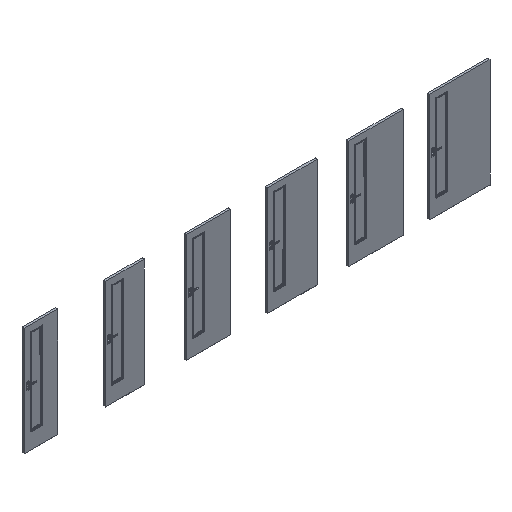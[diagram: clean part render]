
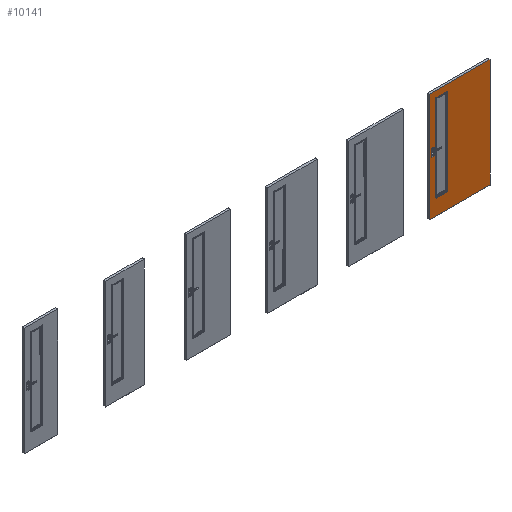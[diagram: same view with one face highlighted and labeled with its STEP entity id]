
A CAD part, isometric view. The second image highlights one B-rep face of the part: STEP entity #10141.
In plain terms, the highlighted planar face has unit normal (0, -1, 0).
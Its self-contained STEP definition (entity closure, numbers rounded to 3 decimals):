
#10141=ADVANCED_FACE('',(#17214,#17215),#14025,.F.);
#14025=PLANE('',#71962);
#16430=CIRCLE('',#71958,7.);
#16431=CIRCLE('',#71959,7.);
#16432=CIRCLE('',#71960,7.);
#16433=CIRCLE('',#71961,7.);
#17214=FACE_BOUND('',#17609,.T.);
#17215=FACE_BOUND('',#17610,.T.);
#17609=EDGE_LOOP('',(#22584,#22585,#22586,#22587,#22588,#22589,#22590,#22591));
#17610=EDGE_LOOP('',(#22592,#22593,#22594,#22595));
#22584=ORIENTED_EDGE('',*,*,#48562,.T.);
#22585=ORIENTED_EDGE('',*,*,#48563,.T.);
#22586=ORIENTED_EDGE('',*,*,#48564,.T.);
#22587=ORIENTED_EDGE('',*,*,#48565,.T.);
#22588=ORIENTED_EDGE('',*,*,#48566,.T.);
#22589=ORIENTED_EDGE('',*,*,#48567,.T.);
#22590=ORIENTED_EDGE('',*,*,#48568,.T.);
#22591=ORIENTED_EDGE('',*,*,#48569,.T.);
#22592=ORIENTED_EDGE('',*,*,#48560,.T.);
#22593=ORIENTED_EDGE('',*,*,#48570,.T.);
#22594=ORIENTED_EDGE('',*,*,#48571,.F.);
#22595=ORIENTED_EDGE('',*,*,#48572,.F.);
#41838=VERTEX_POINT('',#92134);
#41839=VERTEX_POINT('',#92136);
#41840=VERTEX_POINT('',#92140);
#41841=VERTEX_POINT('',#92141);
#41842=VERTEX_POINT('',#92143);
#41843=VERTEX_POINT('',#92145);
#41844=VERTEX_POINT('',#92147);
#41845=VERTEX_POINT('',#92149);
#41846=VERTEX_POINT('',#92151);
#41847=VERTEX_POINT('',#92153);
#41848=VERTEX_POINT('',#92156);
#41849=VERTEX_POINT('',#92158);
#48560=EDGE_CURVE('',#41839,#41838,#58366,.T.);
#48562=EDGE_CURVE('',#41840,#41841,#16430,.T.);
#48563=EDGE_CURVE('',#41841,#41842,#58368,.T.);
#48564=EDGE_CURVE('',#41842,#41843,#16431,.T.);
#48565=EDGE_CURVE('',#41843,#41844,#58369,.T.);
#48566=EDGE_CURVE('',#41844,#41845,#16432,.T.);
#48567=EDGE_CURVE('',#41845,#41846,#58370,.T.);
#48568=EDGE_CURVE('',#41846,#41847,#16433,.T.);
#48569=EDGE_CURVE('',#41847,#41840,#58371,.T.);
#48570=EDGE_CURVE('',#41838,#41848,#58372,.T.);
#48571=EDGE_CURVE('',#41849,#41848,#58373,.T.);
#48572=EDGE_CURVE('',#41839,#41849,#58374,.T.);
#58366=LINE('',#92135,#65152);
#58368=LINE('',#92142,#65154);
#58369=LINE('',#92146,#65155);
#58370=LINE('',#92150,#65156);
#58371=LINE('',#92154,#65157);
#58372=LINE('',#92155,#65158);
#58373=LINE('',#92157,#65159);
#58374=LINE('',#92159,#65160);
#65152=VECTOR('',#76419,1.);
#65154=VECTOR('',#76425,1.);
#65155=VECTOR('',#76428,1.);
#65156=VECTOR('',#76431,1.);
#65157=VECTOR('',#76434,1.);
#65158=VECTOR('',#76435,1.);
#65159=VECTOR('',#76436,1.);
#65160=VECTOR('',#76437,1.);
#71958=AXIS2_PLACEMENT_3D('',#92139,#76423,#76424);
#71959=AXIS2_PLACEMENT_3D('',#92144,#76426,#76427);
#71960=AXIS2_PLACEMENT_3D('',#92148,#76429,#76430);
#71961=AXIS2_PLACEMENT_3D('',#92152,#76432,#76433);
#71962=AXIS2_PLACEMENT_3D('',#92160,#76438,#76439);
#76419=DIRECTION('',(0.,0.,-1.));
#76423=DIRECTION('',(0.,1.,0.));
#76424=DIRECTION('',(1.,0.,0.));
#76425=DIRECTION('',(1.,0.,0.));
#76426=DIRECTION('',(0.,1.,0.));
#76427=DIRECTION('',(-1.,0.,0.));
#76428=DIRECTION('',(0.,0.,-1.));
#76429=DIRECTION('',(0.,1.,0.));
#76430=DIRECTION('',(-1.,0.,0.));
#76431=DIRECTION('',(-1.,0.,0.));
#76432=DIRECTION('',(0.,1.,0.));
#76433=DIRECTION('',(1.,0.,0.));
#76434=DIRECTION('',(0.,0.,1.));
#76435=DIRECTION('',(1.,0.,0.));
#76436=DIRECTION('',(0.,0.,-1.));
#76437=DIRECTION('',(1.,0.,0.));
#76438=DIRECTION('',(0.,1.,0.));
#76439=DIRECTION('',(0.,0.,1.));
#92134=CARTESIAN_POINT('',(7191.,-39.3,2.));
#92135=CARTESIAN_POINT('',(7191.,-39.3,2017.));
#92136=CARTESIAN_POINT('',(7191.,-39.3,2017.));
#92139=CARTESIAN_POINT('',(7317.95,-39.3,1890.05));
#92140=CARTESIAN_POINT('',(7313.,-39.3,1885.101));
#92141=CARTESIAN_POINT('',(7322.899,-39.3,1895.));
#92142=CARTESIAN_POINT('',(7322.899,-39.3,1895.));
#92143=CARTESIAN_POINT('',(7510.101,-39.3,1895.));
#92144=CARTESIAN_POINT('',(7515.05,-39.3,1890.05));
#92145=CARTESIAN_POINT('',(7520.,-39.3,1885.101));
#92146=CARTESIAN_POINT('',(7520.,-39.3,1885.101));
#92147=CARTESIAN_POINT('',(7520.,-39.3,310.899));
#92148=CARTESIAN_POINT('',(7515.05,-39.3,305.95));
#92149=CARTESIAN_POINT('',(7510.101,-39.3,301.));
#92150=CARTESIAN_POINT('',(7510.101,-39.3,301.));
#92151=CARTESIAN_POINT('',(7322.899,-39.3,301.));
#92152=CARTESIAN_POINT('',(7317.95,-39.3,305.95));
#92153=CARTESIAN_POINT('',(7313.,-39.3,310.899));
#92154=CARTESIAN_POINT('',(7313.,-39.3,310.899));
#92155=CARTESIAN_POINT('',(7191.,-39.3,2.));
#92156=CARTESIAN_POINT('',(8309.,-39.3,2.));
#92157=CARTESIAN_POINT('',(8309.,-39.3,2017.));
#92158=CARTESIAN_POINT('',(8309.,-39.3,2017.));
#92159=CARTESIAN_POINT('',(7191.,-39.3,2017.));
#92160=CARTESIAN_POINT('',(7191.,-39.3,2017.));
